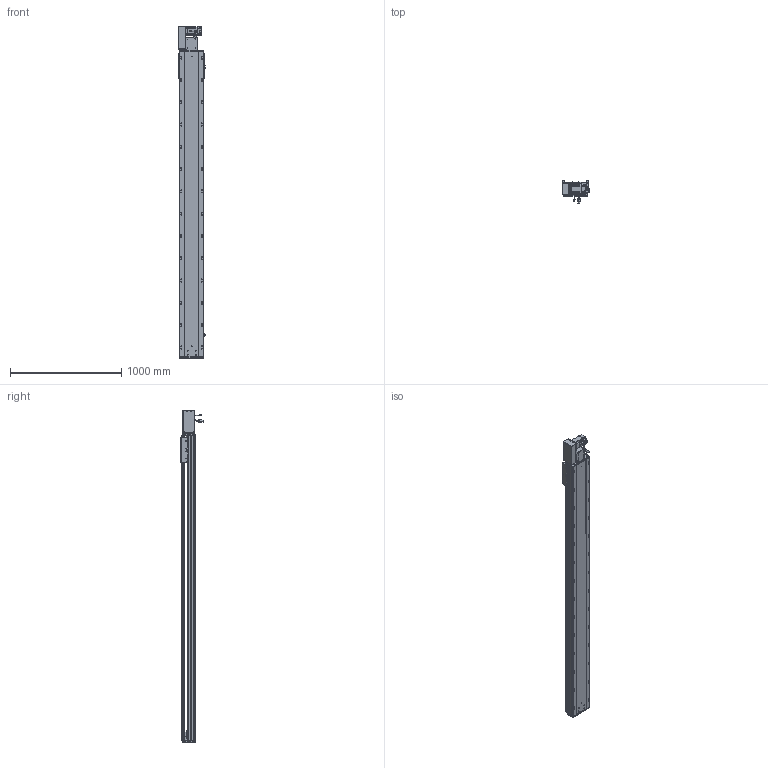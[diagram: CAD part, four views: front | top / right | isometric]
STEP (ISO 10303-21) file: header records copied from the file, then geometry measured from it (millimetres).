
FILE_DESCRIPTION (( 'STEP AP203' ), '1' );
FILE_NAME ('RY220-T-300-LK.SLDASM_2400.step', '2022-07-25T08:15:47', ( '' ), ( '' ), 'SwSTEP 2.0', 'SolidWorks 2016', '' );
FILE_SCHEMA (( 'CONFIG_CONTROL_DESIGN' ));
Length unit declared in the file: millimetre
Products named in the file (14): 覜茼ん672; 110A-T-肮祭謫釱傷裔; RY220-T菁釱-300_2400; RY220-俋离672覜茼んえ; RY220-同步轮副支撑座6304×2; RY220-T-300-LK.SLDASM_2400; 滅袉蝶18-15; RY220翋肮祭謫釱; RY220-T-300-奻裔啣_2400; RY220翋肮祭謫裔啣; RY220-T-湍謫欶(鍼踢); RY220圉猾敕々湍臏賑輸; RY220-T-蛌殏萇儂假蚾啣(750W); 怢湛750W_ECMA-CX0807ES
Assembly tree (18 placements, depth 2):
  RY220-T-300-LK.SLDASM_2400
    RY220-T菁釱-300_2400
    RY220翋肮祭謫釱
    覜茼ん672  x3
    RY220圉猾敕々湍臏賑輸
    RY220-T-300-奻裔啣_2400
    RY220-俋离672覜茼んえ
    滅袉蝶18-15  x3
    RY220翋肮祭謫裔啣  x2
    110A-T-肮祭謫釱傷裔
    怢湛750W_ECMA-CX0807ES
    RY220-T-湍謫欶(鍼踢)
    RY220-T-蛌殏萇儂假蚾啣(750W)
    RY220-同步轮副支撑座6304×2
Bounding box: 239.7 x 198.77 x 2979 mm (x, y, z)
Volume: 21322359.9 mm3; surface area: 6533098 mm2
Topology: 19 solids, 19 shells, 2906 faces, 8031 edges, 5044 vertices
Faces by surface type: cylinder 1414, plane 1069, cone 341, bspline 56, sphere 16, torus 10
Entity records: 96787 total; most frequent: CARTESIAN_POINT 27357, ORIENTED_EDGE 14362, DIRECTION 13800, EDGE_CURVE 7181, AXIS2_PLACEMENT_3D 4956, VERTEX_POINT 4668, VECTOR 3888, LINE 3888
